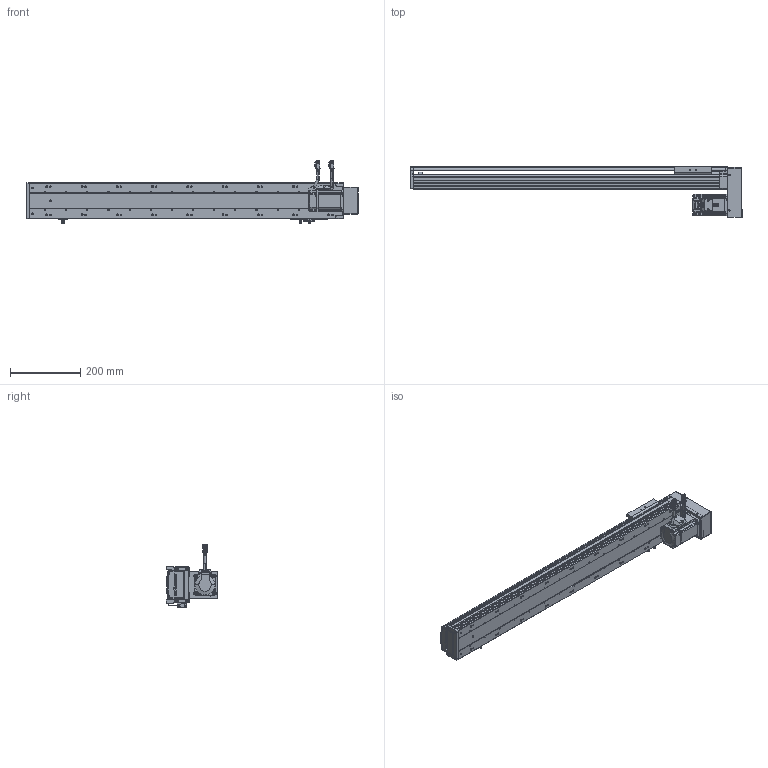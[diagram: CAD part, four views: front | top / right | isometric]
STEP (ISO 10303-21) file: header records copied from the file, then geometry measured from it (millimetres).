
FILE_DESCRIPTION (( 'STEP AP203' ), '1' );
FILE_NAME ('RY100S-L1620-300-BK(15双轨).SLDASM_700.step', '2021-02-20T08:23:32', ( '盈信电脑' ), ( '东莞市道滘镇水果街19号' ), 'SwSTEP 2.0', 'SolidWorks 2012', '' );
FILE_SCHEMA (( 'CONFIG_CONTROL_DESIGN' ));
Length unit declared in the file: millimetre
Products named in the file (26): RY100S-L1620-300-BK(15邧寢).SLDASM_700; 肮祭湍5M遵15笚酗260; 侂狟200W萇儂; RY100S下折电机安装板（15双轨）; RY100S-狟殏萇儂郪; 6; 7; 4; 5; 1; RY80肮祭湍覃踡啣; 3; 2; RY100S狟殏萇儂欶(15邧寢); 3M30喘15遵; RY80肮祭湍芢雄輸; RY100S转折电机端支撑座(15双轨); RY100S-絳寢EGH15-350-LK(腴郪15邧寢)_700; 滅袉蝶18-24; RY100綴裔啣; 覜茼ん672; RY100俋离覜茼え; 滅袉蝶18-10; RY100S铝滑块（15双轨单滑块）底组装导轨; RY100S-300-LK转折型材上盖(15双轨)_700; RY100S-350-LK型材底座(低组15双轨)_700
Assembly tree (28 placements, depth 4):
  RY100S-L1620-300-BK(15邧寢).SLDASM_700
    RY100S-350-LK型材底座(低组15双轨)_700
    RY100S-300-LK转折型材上盖(15双轨)_700
    RY100S铝滑块（15双轨单滑块）底组装导轨
    覜茼ん672  x3
    滅袉蝶18-10
    RY100俋离覜茼え
    RY100S转折电机端支撑座(15双轨)
    滅袉蝶18-24
    RY100綴裔啣
    RY100S-絳寢EGH15-350-LK(腴郪15邧寢)_700
    RY100S-狟殏萇儂郪
      RY80肮祭湍芢雄輸  x2
      RY100S狟殏萇儂欶(15邧寢)
      3M30喘15遵
      RY80肮祭湍覃踡啣
      侂狟200W萇儂
        1
        2
        3
        4
        5
        6
        7
      肮祭湍5M遵15笚酗260
      RY100S下折电机安装板（15双轨）
Bounding box: 942 x 147 x 179.5 mm (x, y, z)
Volume: 2363017.8 mm3; surface area: 927475.7 mm2
Topology: 26 solids, 26 shells, 3384 faces, 9117 edges, 5884 vertices
Faces by surface type: plane 1752, cylinder 1349, cone 169, bspline 114
Entity records: 110439 total; most frequent: CARTESIAN_POINT 27458, ORIENTED_EDGE 16938, DIRECTION 16426, EDGE_CURVE 8469, AXIS2_PLACEMENT_3D 5648, VERTEX_POINT 5520, LINE 5130, VECTOR 5130
